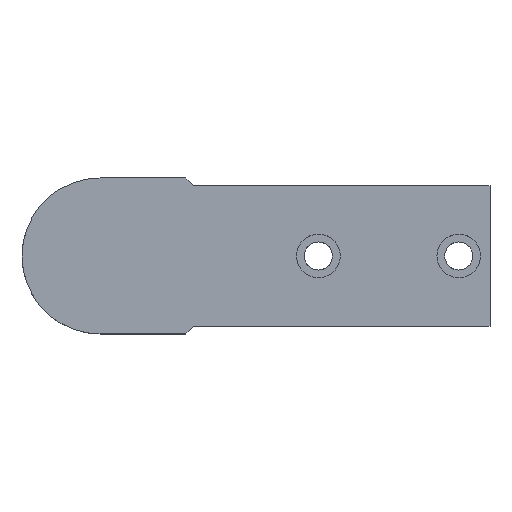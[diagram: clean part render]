
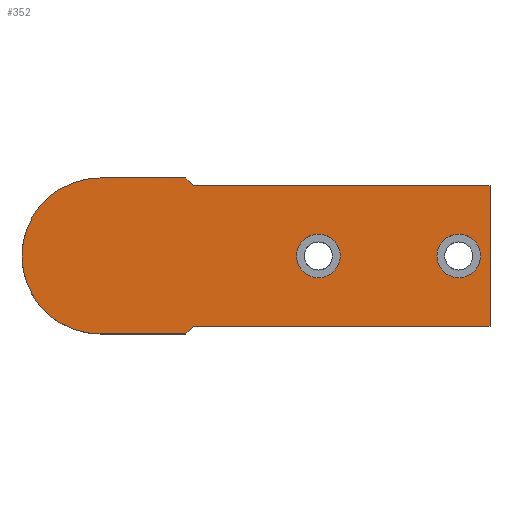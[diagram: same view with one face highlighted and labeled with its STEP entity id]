
A CAD part, top view. The second image highlights one B-rep face of the part: STEP entity #352.
In plain terms, the highlighted planar face has unit normal (0, 0, 1).
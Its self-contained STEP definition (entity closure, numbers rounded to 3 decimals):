
#94 = ORIENTED_EDGE ( 'NONE', *, *, #357, .F. ) ;
#95 = ORIENTED_EDGE ( 'NONE', *, *, #273, .T. ) ;
#103 = ORIENTED_EDGE ( 'NONE', *, *, #1213, .F. ) ;
#108 = EDGE_LOOP ( 'NONE', ( #350, #353 ) ) ;
#109 = EDGE_CURVE ( 'NONE', #333, #361, #546, .T. ) ;
#118 = EDGE_CURVE ( 'NONE', #377, #1262, #533, .T. ) ;
#253 = ORIENTED_EDGE ( 'NONE', *, *, #327, .T. ) ;
#258 = ORIENTED_EDGE ( 'NONE', *, *, #311, .T. ) ;
#260 = ORIENTED_EDGE ( 'NONE', *, *, #359, .T. ) ;
#261 = ORIENTED_EDGE ( 'NONE', *, *, #341, .T. ) ;
#262 = ORIENTED_EDGE ( 'NONE', *, *, #109, .T. ) ;
#273 = EDGE_CURVE ( 'NONE', #286, #274, #751, .T. ) ;
#274 = VERTEX_POINT ( 'NONE', #755 ) ;
#286 = VERTEX_POINT ( 'NONE', #798 ) ;
#291 = EDGE_CURVE ( 'NONE', #302, #286, #791, .T. ) ;
#302 = VERTEX_POINT ( 'NONE', #775 ) ;
#310 = VERTEX_POINT ( 'NONE', #830 ) ;
#311 = EDGE_CURVE ( 'NONE', #1282, #310, #816, .T. ) ;
#316 = EDGE_CURVE ( 'NONE', #274, #1250, #860, .T. ) ;
#327 = EDGE_CURVE ( 'NONE', #310, #370, #841, .T. ) ;
#333 = VERTEX_POINT ( 'NONE', #893 ) ;
#341 = EDGE_CURVE ( 'NONE', #370, #333, #875, .T. ) ;
#343 = ORIENTED_EDGE ( 'NONE', *, *, #316, .T. ) ;
#349 = ORIENTED_EDGE ( 'NONE', *, *, #291, .T. ) ;
#350 = ORIENTED_EDGE ( 'NONE', *, *, #351, .F. ) ;
#351 = EDGE_CURVE ( 'NONE', #1262, #377, #868, .T. ) ;
#352 = ADVANCED_FACE ( 'NONE', ( #923, #876, #874 ), #916, .T. ) ;
#353 = ORIENTED_EDGE ( 'NONE', *, *, #118, .F. ) ;
#355 = EDGE_LOOP ( 'NONE', ( #349, #95, #343, #364, #258, #253, #261, #262, #260 ) ) ;
#356 = EDGE_LOOP ( 'NONE', ( #94, #103 ) ) ;
#357 = EDGE_CURVE ( 'NONE', #1223, #1218, #915, .T. ) ;
#359 = EDGE_CURVE ( 'NONE', #361, #302, #906, .T. ) ;
#361 = VERTEX_POINT ( 'NONE', #919 ) ;
#364 = ORIENTED_EDGE ( 'NONE', *, *, #1278, .T. ) ;
#370 = VERTEX_POINT ( 'NONE', #952 ) ;
#377 = VERTEX_POINT ( 'NONE', #956 ) ;
#533 = CIRCLE ( 'NONE', #534, 7. ) ;
#534 = AXIS2_PLACEMENT_3D ( 'NONE', #591, #589, #588 ) ;
#540 = DIRECTION ( 'NONE',  ( 0., 1., 0. ) ) ;
#541 = VECTOR ( 'NONE', #540, 1000. ) ;
#546 = LINE ( 'NONE', #548, #541 ) ;
#548 = CARTESIAN_POINT ( 'NONE',  ( 125., 22.5, 6. ) ) ;
#588 = DIRECTION ( 'NONE',  ( 1., 0., 0. ) ) ;
#589 = DIRECTION ( 'NONE',  ( 0., 0., 1. ) ) ;
#591 = CARTESIAN_POINT ( 'NONE',  ( 115., 0., 6. ) ) ;
#748 = DIRECTION ( 'NONE',  ( -1., 0., 0. ) ) ;
#749 = VECTOR ( 'NONE', #748, 1000. ) ;
#750 = CARTESIAN_POINT ( 'NONE',  ( 0., 25., 6. ) ) ;
#751 = LINE ( 'NONE', #750, #749 ) ;
#755 = CARTESIAN_POINT ( 'NONE',  ( 0., 25., 6. ) ) ;
#775 = CARTESIAN_POINT ( 'NONE',  ( 30., 22.5, 6. ) ) ;
#787 = DIRECTION ( 'NONE',  ( -0.707, 0.707, 0. ) ) ;
#788 = VECTOR ( 'NONE', #787, 1000. ) ;
#791 = LINE ( 'NONE', #805, #788 ) ;
#798 = CARTESIAN_POINT ( 'NONE',  ( 27.5, 25., 6. ) ) ;
#805 = CARTESIAN_POINT ( 'NONE',  ( 27.5, 25., 6. ) ) ;
#813 = DIRECTION ( 'NONE',  ( 1., 0., 0. ) ) ;
#814 = VECTOR ( 'NONE', #813, 1000. ) ;
#815 = CARTESIAN_POINT ( 'NONE',  ( 0., -25., 6. ) ) ;
#816 = LINE ( 'NONE', #815, #814 ) ;
#830 = CARTESIAN_POINT ( 'NONE',  ( 27.5, -25., 6. ) ) ;
#839 = DIRECTION ( 'NONE',  ( 0.707, 0.707, 0. ) ) ;
#840 = VECTOR ( 'NONE', #839, 1000. ) ;
#841 = LINE ( 'NONE', #854, #840 ) ;
#854 = CARTESIAN_POINT ( 'NONE',  ( 27.5, -25., 6. ) ) ;
#856 = DIRECTION ( 'NONE',  ( 1., 0., 0. ) ) ;
#857 = DIRECTION ( 'NONE',  ( 0., 0., 1. ) ) ;
#858 = CARTESIAN_POINT ( 'NONE',  ( 0., 0., 6. ) ) ;
#859 = AXIS2_PLACEMENT_3D ( 'NONE', #858, #857, #856 ) ;
#860 = CIRCLE ( 'NONE', #859, 25. ) ;
#865 = DIRECTION ( 'NONE',  ( 1., 0., 0. ) ) ;
#866 = VECTOR ( 'NONE', #865, 1000. ) ;
#867 = CARTESIAN_POINT ( 'NONE',  ( 125., -22.5, 6. ) ) ;
#868 = CIRCLE ( 'NONE', #922, 7. ) ;
#873 = AXIS2_PLACEMENT_3D ( 'NONE', #920, #911, #910 ) ;
#874 = FACE_OUTER_BOUND ( 'NONE', #355, .T. ) ;
#875 = LINE ( 'NONE', #867, #866 ) ;
#876 = FACE_BOUND ( 'NONE', #356, .T. ) ;
#893 = CARTESIAN_POINT ( 'NONE',  ( 125., -22.5, 6. ) ) ;
#898 = VECTOR ( 'NONE', #902, 1000. ) ;
#900 = DIRECTION ( 'NONE',  ( 1., 0., 0. ) ) ;
#901 = DIRECTION ( 'NONE',  ( 0., 0., 1. ) ) ;
#902 = DIRECTION ( 'NONE',  ( -1., 0., 0. ) ) ;
#903 = CARTESIAN_POINT ( 'NONE',  ( 30., 22.5, 6. ) ) ;
#906 = LINE ( 'NONE', #903, #898 ) ;
#910 = DIRECTION ( 'NONE',  ( 1., 0., 0. ) ) ;
#911 = DIRECTION ( 'NONE',  ( 0., 0., 1. ) ) ;
#914 = AXIS2_PLACEMENT_3D ( 'NONE', #921, #901, #900 ) ;
#915 = CIRCLE ( 'NONE', #914, 7. ) ;
#916 = PLANE ( 'NONE',  #873 ) ;
#917 = DIRECTION ( 'NONE',  ( 1., 0., 0. ) ) ;
#918 = DIRECTION ( 'NONE',  ( 0., 0., 1. ) ) ;
#919 = CARTESIAN_POINT ( 'NONE',  ( 125., 22.5, 6. ) ) ;
#920 = CARTESIAN_POINT ( 'NONE',  ( 0., 0., 6. ) ) ;
#921 = CARTESIAN_POINT ( 'NONE',  ( 70., 0., 6. ) ) ;
#922 = AXIS2_PLACEMENT_3D ( 'NONE', #926, #918, #917 ) ;
#923 = FACE_BOUND ( 'NONE', #108, .T. ) ;
#926 = CARTESIAN_POINT ( 'NONE',  ( 115., 0., 6. ) ) ;
#928 = AXIS2_PLACEMENT_3D ( 'NONE', #980, #979, #978 ) ;
#952 = CARTESIAN_POINT ( 'NONE',  ( 30., -22.5, 6. ) ) ;
#956 = CARTESIAN_POINT ( 'NONE',  ( 108., 0., 6. ) ) ;
#961 = CARTESIAN_POINT ( 'NONE',  ( 77., 0., 6. ) ) ;
#966 = CARTESIAN_POINT ( 'NONE',  ( 63., 0., 6. ) ) ;
#978 = DIRECTION ( 'NONE',  ( 1., 0., 0. ) ) ;
#979 = DIRECTION ( 'NONE',  ( 0., 0., 1. ) ) ;
#980 = CARTESIAN_POINT ( 'NONE',  ( 70., 0., 6. ) ) ;
#985 = CIRCLE ( 'NONE', #928, 7. ) ;
#1047 = CARTESIAN_POINT ( 'NONE',  ( -25., 0., 6. ) ) ;
#1048 = CARTESIAN_POINT ( 'NONE',  ( 122., 0., 6. ) ) ;
#1058 = DIRECTION ( 'NONE',  ( 1., 0., 0. ) ) ;
#1059 = DIRECTION ( 'NONE',  ( 0., 0., 1. ) ) ;
#1060 = CARTESIAN_POINT ( 'NONE',  ( 0., 0., 6. ) ) ;
#1061 = AXIS2_PLACEMENT_3D ( 'NONE', #1060, #1059, #1058 ) ;
#1062 = CARTESIAN_POINT ( 'NONE',  ( 0., -25., 6. ) ) ;
#1077 = CIRCLE ( 'NONE', #1061, 25. ) ;
#1213 = EDGE_CURVE ( 'NONE', #1218, #1223, #985, .T. ) ;
#1218 = VERTEX_POINT ( 'NONE', #966 ) ;
#1223 = VERTEX_POINT ( 'NONE', #961 ) ;
#1250 = VERTEX_POINT ( 'NONE', #1047 ) ;
#1262 = VERTEX_POINT ( 'NONE', #1048 ) ;
#1278 = EDGE_CURVE ( 'NONE', #1250, #1282, #1077, .T. ) ;
#1282 = VERTEX_POINT ( 'NONE', #1062 ) ;
